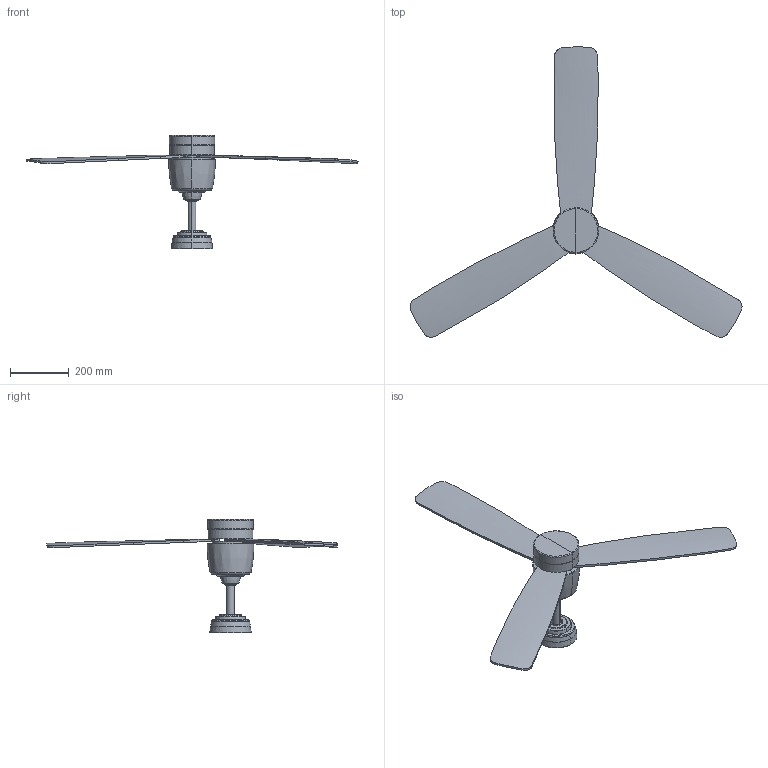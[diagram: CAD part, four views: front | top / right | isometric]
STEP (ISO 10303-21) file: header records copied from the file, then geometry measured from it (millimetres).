
FILE_DESCRIPTION(/* description */ (''),/* implementation_level */ '2;1');
FILE_NAME(/* name */ 'C:\Users\FrancoSartori\Documents\FARO\01_En Proceso\00_MOLOKAI\03_Publicación\33475-17.stp',/* time_stamp */ '2021-07-13T10:16:31+02:00',/* author */ ('FrancoSartori'),/* organization */ (''),/* preprocessor_version */ 'ST-DEVELOPER v18.1',/* originating_system */ 'AutoCAD Mechanical',/* authorisation */ '');
FILE_SCHEMA (('AUTOMOTIVE_DESIGN { 1 0 10303 214 3 1 1 }'));
Length unit declared in the file: millimetre
Products named in the file (2): Product; 33475-17_ - fan-491739-Export
Assembly tree (1 placements, depth 2):
  Product
    33475-17_ - fan-491739-Export
Bounding box: 1128.69 x 987.87 x 384.97 mm (x, y, z)
Volume: 5294267.5 mm3; surface area: 795919.6 mm2
Topology: 7 solids, 7 shells, 228 faces, 644 edges, 430 vertices
Faces by surface type: cylinder 98, plane 70, torus 30, bspline 22, cone 8
Entity records: 17642 total; most frequent: CARTESIAN_POINT 12338, ORIENTED_EDGE 1288, DIRECTION 786, EDGE_CURVE 644, VERTEX_POINT 430, B_SPLINE_CURVE_WITH_KNOTS 354, AXIS2_PLACEMENT_3D 287, EDGE_LOOP 244
